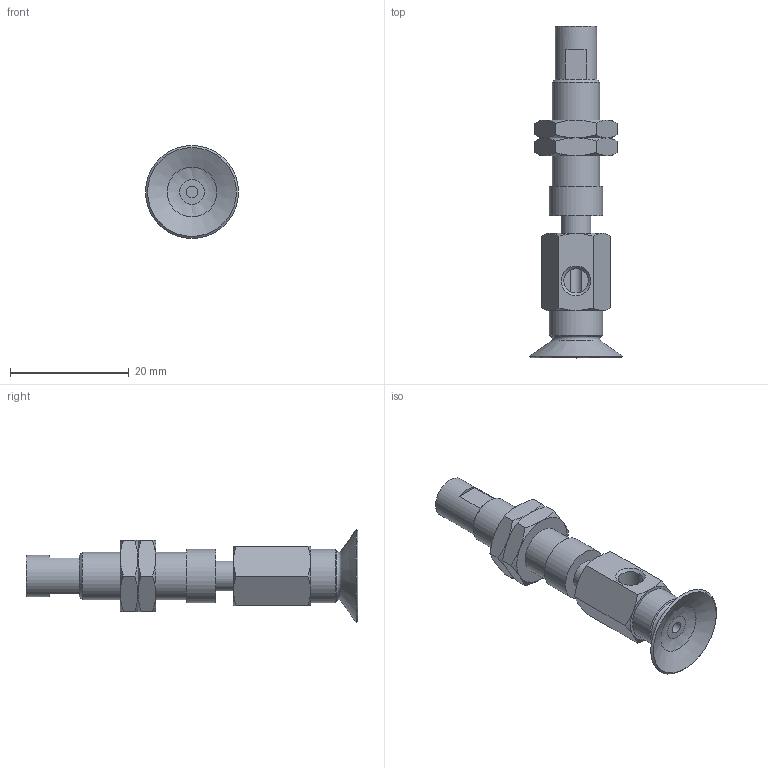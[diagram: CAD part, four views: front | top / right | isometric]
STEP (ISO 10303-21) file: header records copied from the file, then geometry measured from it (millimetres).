
FILE_DESCRIPTION(('STEP AP203'),'1');
FILE_NAME('.stp','2025-04-09T06:57:17',(' '),(' '),'Spatial InterOp 3D',' ',' ');
FILE_SCHEMA(('CONFIG_CONTROL_DESIGN'));
Length unit declared in the file: millimetre
Products named in the file (6): BNABPFYS-15A-3-※; CONNECTOR-15A-3; Nut-15A-3-s; NAPFTS-15A-3-FBODY; NAPFTS-15A-3-MBODY; BPFG-15A-※
Assembly tree (6 placements, depth 2):
  BNABPFYS-15A-3-※
    CONNECTOR-15A-3
    Nut-15A-3-s  x2
    NAPFTS-15A-3-FBODY
    NAPFTS-15A-3-MBODY
    BPFG-15A-※
Bounding box: 15.7 x 56 x 15.7 mm (x, y, z)
Volume: 3498.6 mm3; surface area: 4243.7 mm2
Topology: 6 solids, 6 shells, 129 faces, 270 edges, 162 vertices
Faces by surface type: plane 51, cone 51, cylinder 17, torus 9, bspline 1
Full cylindrical faces by diameter (mm): 2 x2, 4 x2, 4.134 x2, 5 x3, 6 x2, 7 x1, 7.188 x2, 8 x1, 9 x2
Entity records: 3131 total; most frequent: CARTESIAN_POINT 792, DIRECTION 430, ORIENTED_EDGE 354, AXIS2_PLACEMENT_3D 195, EDGE_CURVE 177, EDGE_LOOP 162, FACE_OUTER_BOUND 132, VERTEX_POINT 127
